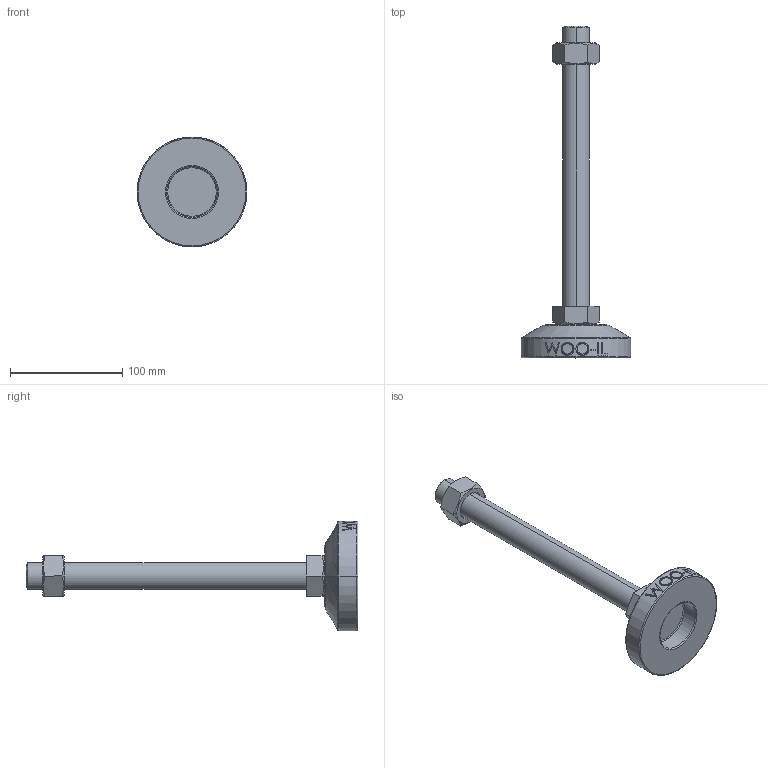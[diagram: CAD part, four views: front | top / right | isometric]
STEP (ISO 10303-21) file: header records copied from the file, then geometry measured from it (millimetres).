
FILE_DESCRIPTION (( 'STEP AP214' ), '1' );
FILE_NAME ('MF98-M24-250.step', '2021-02-03T08:23:41', ( '' ), ( '' ), 'SwSTEP 2.0', 'SolidWorks 2019', '' );
FILE_SCHEMA (( 'AUTOMOTIVE_DESIGN' ));
Length unit declared in the file: millimetre
Products named in the file (2): MF98-M24-250
Bounding box: 98 x 296 x 98 mm (x, y, z)
Volume: 310060.9 mm3; surface area: 51209 mm2
Topology: 3 solids, 3 shells, 106 faces, 243 edges, 154 vertices
Faces by surface type: plane 48, cylinder 18, bspline 16, cone 14, torus 10
Entity records: 4702 total; most frequent: CARTESIAN_POINT 2359, ORIENTED_EDGE 486, DIRECTION 439, EDGE_CURVE 243, AXIS2_PLACEMENT_3D 170, VERTEX_POINT 154, EDGE_LOOP 119, FACE_OUTER_BOUND 106
